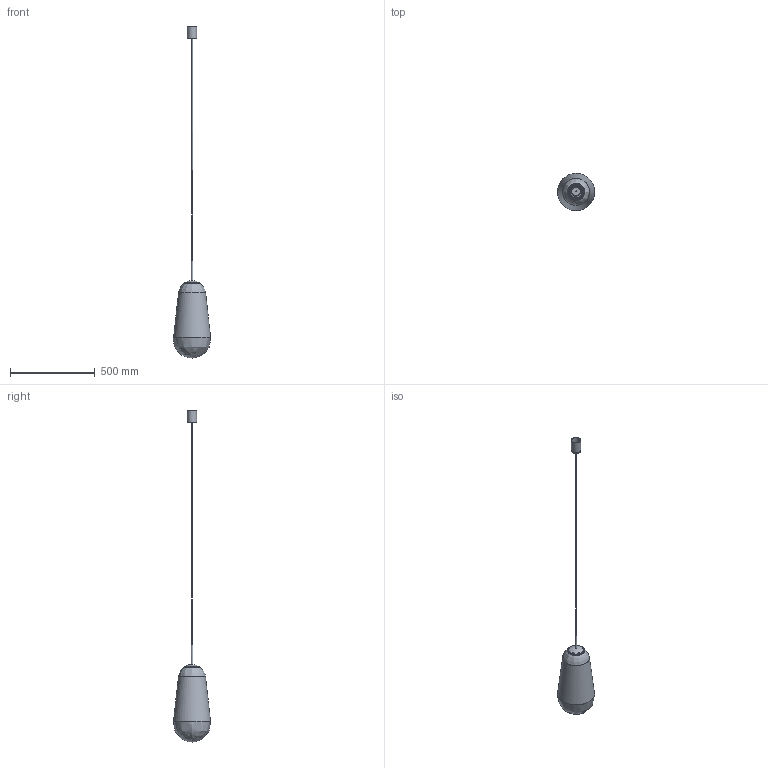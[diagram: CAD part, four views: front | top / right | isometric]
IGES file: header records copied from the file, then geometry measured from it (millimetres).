
Start section: SolidWorks IGES file using NURBS representation for surfaces
Global section: file name: Z:\Modele 3D_WWW\_KOLEKCJE_WWW\PEAR\8671\PEAR-L-8671.IGS; native system: SolidWorks 2021; preprocessor: SolidWorks 2021; author: gabriela.tworek; date: 220110.074848; units: millimetre
Bounding box: 218.99 x 218.69 x 1955.51 mm (x, y, z)
Surface area: 681033.4 mm2 (no closed solid volume)
Topology: 0 solids, 0 shells, 172 faces, 811 edges, 730 vertices
Faces by surface type: bspline 172
